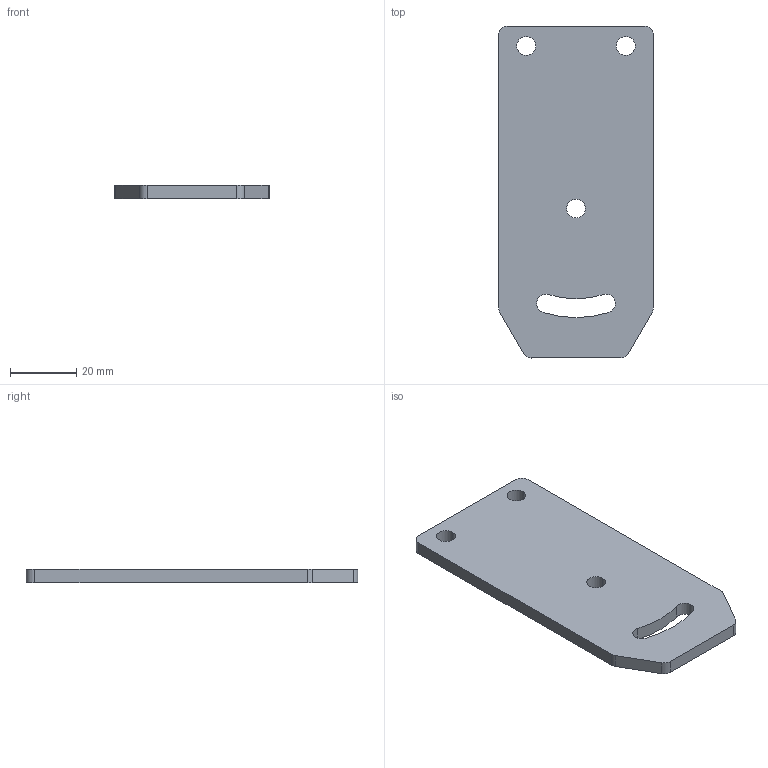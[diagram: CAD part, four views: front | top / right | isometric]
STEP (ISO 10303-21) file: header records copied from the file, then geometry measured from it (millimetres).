
FILE_DESCRIPTION (( 'STEP AP203' ), '1' );
FILE_NAME ('084.800.023.STEP', '2013-01-29T09:29:58', ( 'Alusic' ), ( 'Alusic' ), 'SwSTEP 2.0', 'SolidWorks 2011', '' );
FILE_SCHEMA (( 'CONFIG_CONTROL_DESIGN' ));
Length unit declared in the file: millimetre
Products named in the file (1): 084.800.023
Bounding box: 46.67 x 100 x 4 mm (x, y, z)
Volume: 17351 mm3; surface area: 10219.8 mm2
Topology: 1 solids, 1 shells, 25 faces, 69 edges, 46 vertices
Faces by surface type: cylinder 17, plane 8
Entity records: 910 total; most frequent: DIRECTION 155, CARTESIAN_POINT 141, ORIENTED_EDGE 138, EDGE_CURVE 69, AXIS2_PLACEMENT_3D 60, VERTEX_POINT 46, VECTOR 35, LINE 35
